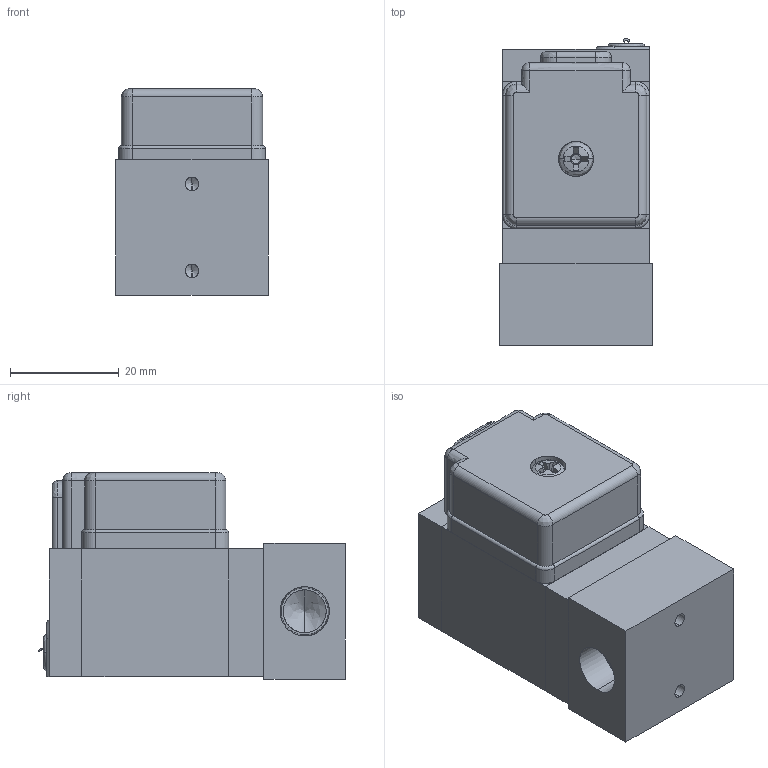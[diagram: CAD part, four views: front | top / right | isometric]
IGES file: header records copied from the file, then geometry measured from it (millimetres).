
Start section: SolidWorks IGES file using analytic representation for surfaces
Global section: file name: C:\Users\Toshiba\Desktop\SS231-01-#G#.IGS; native system: SolidWorks 2014; preprocessor: SolidWorks 2014; author: Toshiba; date: 160801.111145; units: millimetre
Bounding box: 28 x 56.47 x 38 mm (x, y, z)
Surface area: 15857.4 mm2 (no closed solid volume)
Topology: 0 solids, 0 shells, 246 faces, 2322 edges, 2307 vertices
Faces by surface type: bspline 139, revolution 107
